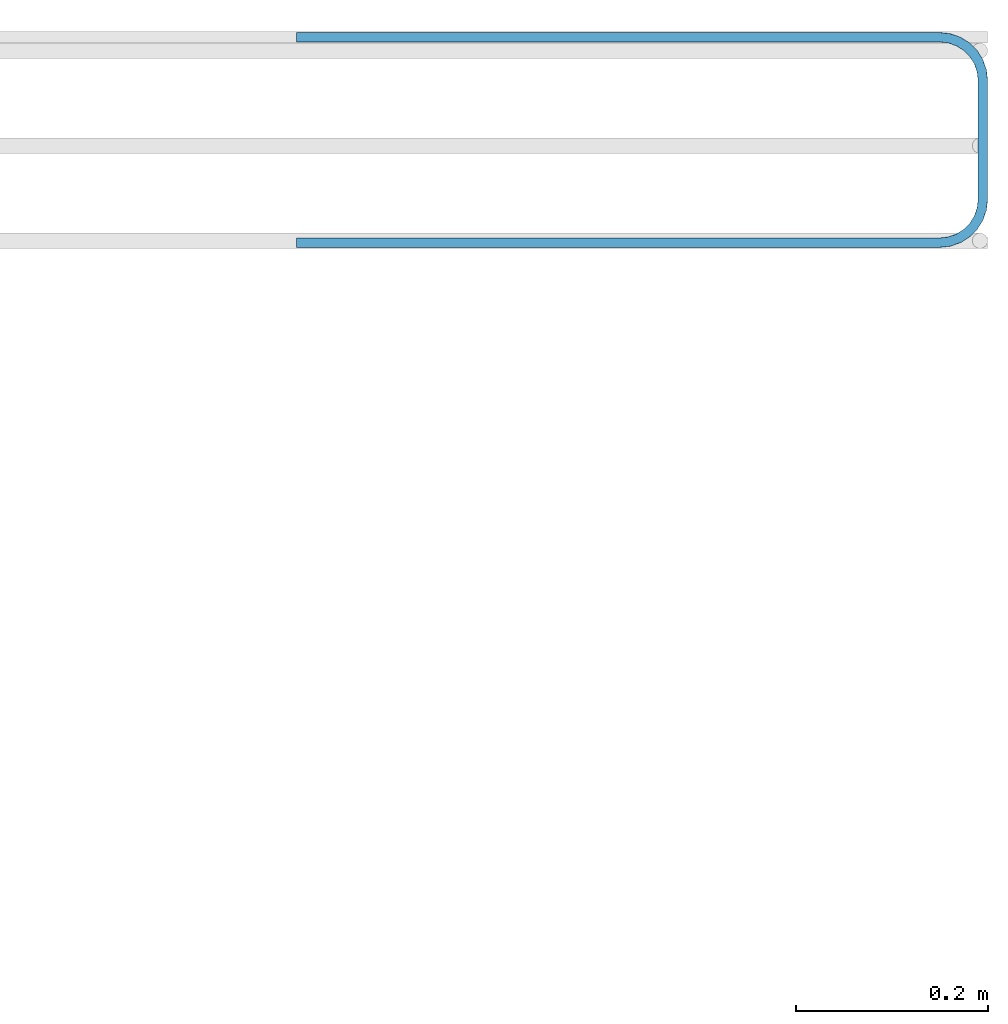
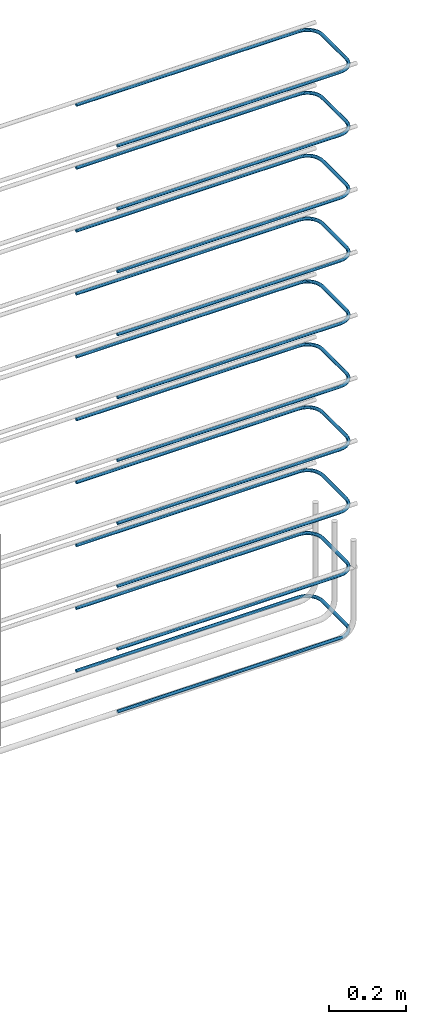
# One storey, part 5 of 21: 1 reinforcing bar.
"""IFC4X3_ADD2 building model written with IfcOpenShell, lengths in millimetres."""

import ifcopenshell
import ifcopenshell.guid

model = None  # the IFC model being written
_history = None  # IfcOwnerHistory: only IFC2X3 demands one
_inside = {}  # id of a spatial element -> (the spatial element, [elements in it])
_under = {}  # id of a project, library or spatial element -> (it, [spatial elements below it])
_declared = {}  # id of a project -> (the project, [libraries it declares])
_typed = {}  # id of a type object -> (the type object, [elements of that type])
_made_of = {}  # id of a material, layer set ... -> (it, [elements and type objects made of it])


def new_model(schema):
    """Start an empty IFC model of exactly this schema.

    Asked for "IFC4X3", IfcOpenShell would pick the latest addendum, in which some entities
    have other attributes; the version numbers below select the first issue.
    IFC2X3 requires an IfcOwnerHistory on every rooted entity: one is made here for all.
    """
    global model, _history
    if schema == "IFC4X3":
        model = ifcopenshell.file(schema_version=(4, 3, 0, 0))
    else:
        model = ifcopenshell.file(schema=schema)
    _inside.clear()
    _under.clear()
    _declared.clear()
    _typed.clear()
    _made_of.clear()
    _history = None
    if model.schema == "IFC2X3":
        org = make("IfcOrganization", Name="unknown")
        user = make(
            "IfcPersonAndOrganization",
            ThePerson=make("IfcPerson", FamilyName="unknown"),
            TheOrganization=org,
        )
        app = make(
            "IfcApplication",
            ApplicationDeveloper=org,
            Version="unknown",
            ApplicationFullName="unknown",
            ApplicationIdentifier="unknown",
        )
        _history = make(
            "IfcOwnerHistory",
            OwningUser=user,
            OwningApplication=app,
            ChangeAction="ADDED",
            CreationDate=0,
        )
    return model


def make(cls, **values):
    """One entity of the class cls with the attributes given. An attribute that is None is left unset."""
    return model.create_entity(
        cls, **{name: value for name, value in values.items() if value is not None}
    )


def entity(cls, *values):
    """Any entity or typed value of the class cls, its attributes in the order of the schema. None: left unset."""
    e = model.create_entity(cls)
    for i, value in enumerate(values):
        if value is not None:
            e[i] = value
    return e


def rooted(cls, **values):
    """An entity with a GlobalId (a new one), such as an element, a storey or a relation."""
    return make(cls, GlobalId=ifcopenshell.guid.new(), OwnerHistory=_history, **values)


def si_unit(unit_type, name, prefix=None):
    """IfcSIUnit, for example si_unit("LENGTHUNIT", "METRE", prefix="MILLI")."""
    return make("IfcSIUnit", UnitType=unit_type, Prefix=prefix, Name=name)


def converted_unit(unit_type, name, factor, base, dimensions=None, offset=None):
    """IfcConversionBasedUnit, such as the inch: factor (a typed value) times the base unit."""
    return make(
        "IfcConversionBasedUnit"
        if offset is None
        else "IfcConversionBasedUnitWithOffset",
        ConversionOffset=offset,
        Dimensions=None
        if dimensions is None
        else entity("IfcDimensionalExponents", *dimensions),
        UnitType=unit_type,
        Name=name,
        ConversionFactor=make(
            "IfcMeasureWithUnit", ValueComponent=factor, UnitComponent=base
        ),
    )


def derived_unit(unit_type, elements):
    """IfcDerivedUnit: a product of units, each with its exponent."""
    return make(
        "IfcDerivedUnit",
        Elements=[
            make("IfcDerivedUnitElement", Unit=unit, Exponent=power)
            for unit, power in elements
        ],
        UnitType=unit_type,
    )


def assignment(units):
    """IfcUnitAssignment: the units of a project."""
    return None if units is None else make("IfcUnitAssignment", Units=units)


def point(xyz):
    """IfcCartesianPoint."""
    return None if xyz is None else make("IfcCartesianPoint", Coordinates=xyz)


def direction(xyz):
    """IfcDirection."""
    return None if xyz is None else make("IfcDirection", DirectionRatios=xyz)


def frame(location, z_axis=None, x_axis=None):
    """IfcAxis2Placement3D, a coordinate frame: its origin and axes. An axis left out is left unset."""
    return make(
        "IfcAxis2Placement3D",
        Location=point(location),
        Axis=direction(z_axis),
        RefDirection=direction(x_axis),
    )


def origin():
    """The frame at (0, 0, 0) with its axes left unset."""
    return frame((0.0, 0.0, 0.0))


def place(relative_to, where):
    """IfcLocalPlacement: puts the frame where relative to a parent placement (None: the world)."""
    return make(
        "IfcLocalPlacement", PlacementRelTo=relative_to, RelativePlacement=where
    )


def context(
    kind, dimensions, precision=None, world=None, true_north=None, identifier=None
):
    """IfcGeometricRepresentationContext, for example the 3D "Model" context."""
    return make(
        "IfcGeometricRepresentationContext",
        ContextIdentifier=identifier,
        ContextType=kind,
        CoordinateSpaceDimension=dimensions,
        Precision=precision,
        WorldCoordinateSystem=world,
        TrueNorth=true_north,
    )


def subcontext(parent, identifier, kind, view, scale=None):
    """IfcGeometricRepresentationSubContext, for example "Body" below "Model"."""
    return make(
        "IfcGeometricRepresentationSubContext",
        ContextIdentifier=identifier,
        ContextType=kind,
        ParentContext=parent,
        TargetScale=scale,
        TargetView=view,
    )


def project(units=None, contexts=None):
    """IfcProject with its units and contexts."""
    return rooted(
        "IfcProject",
        Name="project",
        RepresentationContexts=contexts,
        UnitsInContext=assignment(units),
    )


def spatial(cls, under=None, at=None, **own):
    """A site, building, storey or space (cls), placed at a placement, below another one or the project."""
    s = rooted(cls, ObjectPlacement=at, **own)
    if under is not None:
        _under.setdefault(under.id(), (under, []))[1].append(s)
    return s


def shape(context_of_items, identifier, shape_type, items):
    """IfcShapeRepresentation: the items that make up one representation, for example the "Body"."""
    return make(
        "IfcShapeRepresentation",
        ContextOfItems=context_of_items,
        RepresentationIdentifier=identifier,
        RepresentationType=shape_type,
        Items=items,
    )


def material(Name=None, Category=None):
    """IfcMaterial."""
    return make("IfcMaterial", Name=Name, Category=Category)


def made_of(thing, what):
    """Note that an element or type object is made of a material, layer set ...; save() writes the relation."""
    if what is not None:
        _made_of.setdefault(what.id(), (what, []))[1].append(thing)
    return thing


def type_object(cls, material=None, **own):
    """A type object (cls), such as IfcWallType, which elements share."""
    return made_of(rooted(cls, **own), material)


def element(
    cls,
    number,
    at=None,
    inside=None,
    cuts=None,
    type_object=None,
    material=None,
    context=None,
    identifier="Body",
    shape_type=None,
    held_by="IfcProductDefinitionShape",
    body=None,
    shapes=None,
    **own,
):
    """One element of the class cls, such as IfcWall. Its Tag is "e" and its number.

    at: its placement. inside: the storey or other place that contains it. cuts: it is an
    opening in that element (IfcRelVoidsElement). A single representation is given by context,
    identifier, shape_type and body (its items); several are given by shapes. held_by: the class
    of the entity that holds the representations. save() writes the other relations.
    """
    e = rooted(cls, Tag="e%d" % number, ObjectPlacement=at, **own)
    if body is not None:
        shapes = [shape(context, identifier, shape_type, body)]
    if shapes is not None:
        e.Representation = make(held_by, Representations=shapes)
    if inside is not None:
        _inside.setdefault(inside.id(), (inside, []))[1].append(e)
    if cuts is not None:
        rooted(
            "IfcRelVoidsElement", RelatingBuildingElement=cuts, RelatedOpeningElement=e
        )
    if type_object is not None:
        _typed.setdefault(type_object.id(), (type_object, []))[1].append(e)
    return made_of(e, material)


def aggregate(whole, parts):
    """IfcRelAggregates: a whole, such as a stair, and the parts it consists of."""
    return rooted("IfcRelAggregates", RelatingObject=whole, RelatedObjects=parts)


def save(model, path):
    """Write the relations noted so far, then the file.

    IfcRelAggregates (storeys below a building ...), IfcRelContainedInSpatialStructure (elements
    in a storey), IfcRelDefinesByType, IfcRelAssociatesMaterial and IfcRelDeclares: one each for
    every whole, place, type object, material and project.
    """
    for whole, parts in _under.values():
        aggregate(whole, parts)
    for where, things in _inside.values():
        rooted(
            "IfcRelContainedInSpatialStructure",
            RelatedElements=things,
            RelatingStructure=where,
        )
    for kind, things in _typed.values():
        rooted("IfcRelDefinesByType", RelatedObjects=things, RelatingType=kind)
    for what, things in _made_of.values():
        rooted("IfcRelAssociatesMaterial", RelatedObjects=things, RelatingMaterial=what)
    for by, libraries in _declared.values():
        rooted("IfcRelDeclares", RelatingContext=by, RelatedDefinitions=libraries)
    model.write(path)


model = new_model("IFC4X3_ADD2")

# Units and contexts
model_context = context("Model", 3, precision=0.01, world=origin(), true_north=direction((6.123233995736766e-17, 1.0)))
plan_context = context("Plan", 3, precision=0.01, world=origin(), true_north=direction((6.123233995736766e-17, 1.0)))
body_context = subcontext(model_context, "Body", "Model", "MODEL_VIEW")
ifc_project = project(units=[si_unit("LENGTHUNIT", "METRE", prefix="MILLI"), converted_unit("PLANEANGLEUNIT", "DEGREE", entity("IfcPlaneAngleMeasure", 0.017453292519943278), si_unit("PLANEANGLEUNIT", "RADIAN"), dimensions=[0, 0, 0, 0, 0, 0, 0]), si_unit("AREAUNIT", "SQUARE_METRE"), si_unit("VOLUMEUNIT", "CUBIC_METRE"), derived_unit("THERMALTRANSMITTANCEUNIT", [(si_unit("MASSUNIT", "GRAM", prefix="KILO"), 1), (si_unit("THERMODYNAMICTEMPERATUREUNIT", "KELVIN"), -1), (si_unit("TIMEUNIT", "SECOND"), -3)]), derived_unit("USERDEFINED", [(si_unit("MASSUNIT", "GRAM", prefix="KILO"), 1), (si_unit("THERMODYNAMICTEMPERATUREUNIT", "KELVIN"), -1), (si_unit("TIMEUNIT", "SECOND"), -2)]), derived_unit("THERMALRESISTANCEUNIT", [(si_unit("MASSUNIT", "GRAM", prefix="KILO"), -1), (si_unit("TIMEUNIT", "SECOND"), 3), (si_unit("THERMODYNAMICTEMPERATUREUNIT", "KELVIN"), 1)]), si_unit("MASSUNIT", "GRAM", prefix="KILO"), derived_unit("MOMENTOFINERTIAUNIT", [(si_unit("LENGTHUNIT", "METRE"), 4)]), derived_unit("LINEARFORCEUNIT", [(si_unit("MASSUNIT", "GRAM", prefix="KILO"), 1), (si_unit("TIMEUNIT", "SECOND"), -2)]), derived_unit("WARPINGCONSTANTUNIT", [(si_unit("LENGTHUNIT", "METRE"), 6)]), si_unit("PRESSUREUNIT", "PASCAL"), derived_unit("MASSDENSITYUNIT", [(si_unit("MASSUNIT", "GRAM", prefix="KILO"), 1), (si_unit("LENGTHUNIT", "METRE"), -3)]), derived_unit("MODULUSOFELASTICITYUNIT", [(si_unit("MASSUNIT", "GRAM", prefix="KILO"), 1), (si_unit("TIMEUNIT", "SECOND"), -2), (si_unit("LENGTHUNIT", "METRE"), -1)]), derived_unit("THERMALEXPANSIONCOEFFICIENTUNIT", [(si_unit("THERMODYNAMICTEMPERATUREUNIT", "KELVIN"), -1)]), derived_unit("VAPORPERMEABILITYUNIT", [(si_unit("LENGTHUNIT", "METRE"), -1), (si_unit("TIMEUNIT", "SECOND"), 1)]), derived_unit("USERDEFINED", [(si_unit("MASSUNIT", "GRAM", prefix="KILO"), 1), (si_unit("TIMEUNIT", "SECOND"), -3), (si_unit("LENGTHUNIT", "METRE"), 3), (si_unit("ELECTRICCURRENTUNIT", "AMPERE"), -2)]), derived_unit("SPECIFICHEATCAPACITYUNIT", [(si_unit("THERMODYNAMICTEMPERATUREUNIT", "KELVIN"), -1), (si_unit("TIMEUNIT", "SECOND"), -2), (si_unit("LENGTHUNIT", "METRE"), 2)]), derived_unit("THERMALCONDUCTANCEUNIT", [(si_unit("MASSUNIT", "GRAM", prefix="KILO"), 1), (si_unit("THERMODYNAMICTEMPERATUREUNIT", "KELVIN"), -1), (si_unit("TIMEUNIT", "SECOND"), -3), (si_unit("LENGTHUNIT", "METRE"), 1)])], contexts=[model_context, plan_context])

# Site, building, storey
site_placement = place(None, origin())
site = spatial("IfcSite", under=ifc_project, at=site_placement, Name="Default", CompositionType="ELEMENT")
building_placement = place(site_placement, origin())
building = spatial("IfcBuilding", under=site, at=building_placement, Name="Complex structure", CompositionType="ELEMENT")
storey_placement = place(building_placement, frame((0.0, 0.0, 3000.0)))
storey = spatial("IfcBuildingStorey", under=building, at=storey_placement, Name="Level 01", CompositionType="ELEMENT", Elevation=3000.0)

# Reinforcing bar
ifc_material = material(Name="Steel Rebar - B500A, B or C", Category="Unassigned")
reinforcing_bar_type = type_object("IfcReinforcingBarType", Name="Rebar Bar:10mm", PredefinedType="NOTDEFINED")
reinforcing_bar_placement = place(storey_placement, origin())
ifc_direction_1 = entity("IfcDirection", [0.0, 0.0, -1.0])
ifc_direction_2 = entity("IfcDirection", [0.0, 0.0, -1.0])
ifc_direction_3 = entity("IfcDirection", [0.0, 0.0, -1.0])
ifc_direction_4 = entity("IfcDirection", [0.0, 0.0, -1.0])
ifc_direction_5 = entity("IfcDirection", [0.0, 0.0, -1.0])
ifc_direction_6 = entity("IfcDirection", [0.0, 0.0, -1.0])
ifc_direction_7 = entity("IfcDirection", [0.0, 0.0, -1.0])
ifc_direction_8 = entity("IfcDirection", [0.0, 0.0, -1.0])
ifc_direction_9 = entity("IfcDirection", [0.0, 0.0, -1.0])
ifc_direction_10 = entity("IfcDirection", [0.0, 0.0, -1.0])
element("IfcReinforcingBar", 1, at=reinforcing_bar_placement, inside=storey, type_object=reinforcing_bar_type, material=ifc_material, Name="Rebar Bar:10mm : Shape 21", ObjectType="Rebar Bar:10mm", context=body_context, shape_type="AdvancedSweptSolid", body=[
    entity("IfcSweptDiskSolid", entity("IfcCompositeCurve", [entity("IfcCompositeCurveSegment", "CONTINUOUS", True, entity("IfcPolyline", [entity("IfcCartesianPoint", [-1390.221550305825, 4844.133296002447, 1848.0]), entity("IfcCartesianPoint", [-720.221550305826, 4844.133296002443, 1848.0])])), entity("IfcCompositeCurveSegment", "CONTINUOUS", True, entity("IfcTrimmedCurve", entity("IfcCircle", entity("IfcAxis2Placement3D", entity("IfcCartesianPoint", [-720.2215503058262, 4799.133296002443, 1848.0]), ifc_direction_1, entity("IfcDirection", [1.0, 0.0, 0.0])), 45.0), [entity("IfcParameterValue", 269.9999999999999)], [entity("IfcParameterValue", 360.00000000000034)], True, "PARAMETER")), entity("IfcCompositeCurveSegment", "CONTINUOUS", True, entity("IfcPolyline", [entity("IfcCartesianPoint", [-675.2215503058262, 4799.133296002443, 1848.0]), entity("IfcCartesianPoint", [-675.221550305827, 4675.1332960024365, 1848.0])])), entity("IfcCompositeCurveSegment", "CONTINUOUS", True, entity("IfcTrimmedCurve", entity("IfcCircle", entity("IfcAxis2Placement3D", entity("IfcCartesianPoint", [-720.221550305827, 4675.133296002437, 1848.0]), ifc_direction_1, entity("IfcDirection", [0.0, -1.0, 0.0])), 45.0), [entity("IfcParameterValue", 269.9999999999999)], [entity("IfcParameterValue", 360.00000000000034)], True, "PARAMETER")), entity("IfcCompositeCurveSegment", "CONTINUOUS", True, entity("IfcPolyline", [entity("IfcCartesianPoint", [-720.2215503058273, 4630.133296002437, 1848.0]), entity("IfcCartesianPoint", [-1390.2215503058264, 4630.133296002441, 1848.0])]))], False), 5.0, None, 0.0, 183.00000000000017),
    entity("IfcSweptDiskSolid", entity("IfcCompositeCurve", [entity("IfcCompositeCurveSegment", "CONTINUOUS", True, entity("IfcPolyline", [entity("IfcCartesianPoint", [-1390.2215503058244, 4844.133296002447, 1648.0]), entity("IfcCartesianPoint", [-720.2215503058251, 4844.133296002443, 1648.0])])), entity("IfcCompositeCurveSegment", "CONTINUOUS", True, entity("IfcTrimmedCurve", entity("IfcCircle", entity("IfcAxis2Placement3D", entity("IfcCartesianPoint", [-720.2215503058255, 4799.133296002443, 1648.0]), ifc_direction_2, entity("IfcDirection", [1.0, 0.0, 0.0])), 45.0), [entity("IfcParameterValue", 269.9999999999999)], [entity("IfcParameterValue", 360.00000000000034)], True, "PARAMETER")), entity("IfcCompositeCurveSegment", "CONTINUOUS", True, entity("IfcPolyline", [entity("IfcCartesianPoint", [-675.2215503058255, 4799.133296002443, 1648.0]), entity("IfcCartesianPoint", [-675.2215503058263, 4675.1332960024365, 1648.0])])), entity("IfcCompositeCurveSegment", "CONTINUOUS", True, entity("IfcTrimmedCurve", entity("IfcCircle", entity("IfcAxis2Placement3D", entity("IfcCartesianPoint", [-720.2215503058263, 4675.133296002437, 1648.0]), ifc_direction_2, entity("IfcDirection", [0.0, -1.0, 0.0])), 45.0), [entity("IfcParameterValue", 269.9999999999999)], [entity("IfcParameterValue", 360.00000000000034)], True, "PARAMETER")), entity("IfcCompositeCurveSegment", "CONTINUOUS", True, entity("IfcPolyline", [entity("IfcCartesianPoint", [-720.2215503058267, 4630.133296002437, 1648.0]), entity("IfcCartesianPoint", [-1390.2215503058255, 4630.133296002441, 1648.0])]))], False), 5.0, None, 0.0, 183.00000000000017),
    entity("IfcSweptDiskSolid", entity("IfcCompositeCurve", [entity("IfcCompositeCurveSegment", "CONTINUOUS", True, entity("IfcPolyline", [entity("IfcCartesianPoint", [-1390.2215503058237, 4844.133296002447, 1448.0]), entity("IfcCartesianPoint", [-720.2215503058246, 4844.133296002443, 1448.0])])), entity("IfcCompositeCurveSegment", "CONTINUOUS", True, entity("IfcTrimmedCurve", entity("IfcCircle", entity("IfcAxis2Placement3D", entity("IfcCartesianPoint", [-720.2215503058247, 4799.133296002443, 1448.0]), ifc_direction_3, entity("IfcDirection", [1.0, 0.0, 0.0])), 45.0), [entity("IfcParameterValue", 269.9999999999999)], [entity("IfcParameterValue", 360.00000000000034)], True, "PARAMETER")), entity("IfcCompositeCurveSegment", "CONTINUOUS", True, entity("IfcPolyline", [entity("IfcCartesianPoint", [-675.2215503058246, 4799.133296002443, 1448.0]), entity("IfcCartesianPoint", [-675.2215503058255, 4675.1332960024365, 1448.0])])), entity("IfcCompositeCurveSegment", "CONTINUOUS", True, entity("IfcTrimmedCurve", entity("IfcCircle", entity("IfcAxis2Placement3D", entity("IfcCartesianPoint", [-720.2215503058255, 4675.133296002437, 1448.0]), ifc_direction_3, entity("IfcDirection", [0.0, -1.0, 0.0])), 45.0), [entity("IfcParameterValue", 269.9999999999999)], [entity("IfcParameterValue", 360.00000000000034)], True, "PARAMETER")), entity("IfcCompositeCurveSegment", "CONTINUOUS", True, entity("IfcPolyline", [entity("IfcCartesianPoint", [-720.2215503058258, 4630.133296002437, 1448.0]), entity("IfcCartesianPoint", [-1390.221550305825, 4630.133296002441, 1448.0])]))], False), 5.0, None, 0.0, 183.00000000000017),
    entity("IfcSweptDiskSolid", entity("IfcCompositeCurve", [entity("IfcCompositeCurveSegment", "CONTINUOUS", True, entity("IfcPolyline", [entity("IfcCartesianPoint", [-1390.221550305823, 4844.133296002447, 1248.0]), entity("IfcCartesianPoint", [-720.2215503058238, 4844.133296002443, 1248.0])])), entity("IfcCompositeCurveSegment", "CONTINUOUS", True, entity("IfcTrimmedCurve", entity("IfcCircle", entity("IfcAxis2Placement3D", entity("IfcCartesianPoint", [-720.221550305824, 4799.133296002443, 1248.0]), ifc_direction_4, entity("IfcDirection", [1.0, 0.0, 0.0])), 45.0), [entity("IfcParameterValue", 269.9999999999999)], [entity("IfcParameterValue", 360.00000000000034)], True, "PARAMETER")), entity("IfcCompositeCurveSegment", "CONTINUOUS", True, entity("IfcPolyline", [entity("IfcCartesianPoint", [-675.2215503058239, 4799.133296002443, 1248.0]), entity("IfcCartesianPoint", [-675.2215503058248, 4675.1332960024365, 1248.0])])), entity("IfcCompositeCurveSegment", "CONTINUOUS", True, entity("IfcTrimmedCurve", entity("IfcCircle", entity("IfcAxis2Placement3D", entity("IfcCartesianPoint", [-720.2215503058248, 4675.133296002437, 1248.0]), ifc_direction_4, entity("IfcDirection", [0.0, -1.0, 0.0])), 45.0), [entity("IfcParameterValue", 269.9999999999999)], [entity("IfcParameterValue", 360.00000000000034)], True, "PARAMETER")), entity("IfcCompositeCurveSegment", "CONTINUOUS", True, entity("IfcPolyline", [entity("IfcCartesianPoint", [-720.2215503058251, 4630.133296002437, 1248.0]), entity("IfcCartesianPoint", [-1390.2215503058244, 4630.133296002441, 1248.0])]))], False), 5.0, None, 0.0, 183.00000000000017),
    entity("IfcSweptDiskSolid", entity("IfcCompositeCurve", [entity("IfcCompositeCurveSegment", "CONTINUOUS", True, entity("IfcPolyline", [entity("IfcCartesianPoint", [-1390.2215503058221, 4844.133296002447, 1048.0]), entity("IfcCartesianPoint", [-720.2215503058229, 4844.133296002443, 1048.0])])), entity("IfcCompositeCurveSegment", "CONTINUOUS", True, entity("IfcTrimmedCurve", entity("IfcCircle", entity("IfcAxis2Placement3D", entity("IfcCartesianPoint", [-720.2215503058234, 4799.133296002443, 1048.0]), ifc_direction_5, entity("IfcDirection", [1.0, 0.0, 0.0])), 45.0), [entity("IfcParameterValue", 269.9999999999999)], [entity("IfcParameterValue", 360.00000000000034)], True, "PARAMETER")), entity("IfcCompositeCurveSegment", "CONTINUOUS", True, entity("IfcPolyline", [entity("IfcCartesianPoint", [-675.2215503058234, 4799.133296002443, 1048.0]), entity("IfcCartesianPoint", [-675.2215503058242, 4675.1332960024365, 1048.0])])), entity("IfcCompositeCurveSegment", "CONTINUOUS", True, entity("IfcTrimmedCurve", entity("IfcCircle", entity("IfcAxis2Placement3D", entity("IfcCartesianPoint", [-720.2215503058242, 4675.133296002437, 1048.0]), ifc_direction_5, entity("IfcDirection", [0.0, -1.0, 0.0])), 45.0), [entity("IfcParameterValue", 269.9999999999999)], [entity("IfcParameterValue", 360.00000000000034)], True, "PARAMETER")), entity("IfcCompositeCurveSegment", "CONTINUOUS", True, entity("IfcPolyline", [entity("IfcCartesianPoint", [-720.2215503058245, 4630.133296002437, 1048.0]), entity("IfcCartesianPoint", [-1390.2215503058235, 4630.133296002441, 1048.0])]))], False), 5.0, None, 0.0, 183.00000000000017),
    entity("IfcSweptDiskSolid", entity("IfcCompositeCurve", [entity("IfcCompositeCurveSegment", "CONTINUOUS", True, entity("IfcPolyline", [entity("IfcCartesianPoint", [-1390.2215503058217, 4844.133296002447, 848.0]), entity("IfcCartesianPoint", [-720.2215503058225, 4844.133296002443, 848.0])])), entity("IfcCompositeCurveSegment", "CONTINUOUS", True, entity("IfcTrimmedCurve", entity("IfcCircle", entity("IfcAxis2Placement3D", entity("IfcCartesianPoint", [-720.2215503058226, 4799.133296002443, 848.0]), ifc_direction_6, entity("IfcDirection", [1.0, 0.0, 0.0])), 45.0), [entity("IfcParameterValue", 269.9999999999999)], [entity("IfcParameterValue", 360.00000000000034)], True, "PARAMETER")), entity("IfcCompositeCurveSegment", "CONTINUOUS", True, entity("IfcPolyline", [entity("IfcCartesianPoint", [-675.2215503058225, 4799.133296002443, 848.0]), entity("IfcCartesianPoint", [-675.2215503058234, 4675.1332960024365, 848.0])])), entity("IfcCompositeCurveSegment", "CONTINUOUS", True, entity("IfcTrimmedCurve", entity("IfcCircle", entity("IfcAxis2Placement3D", entity("IfcCartesianPoint", [-720.2215503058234, 4675.133296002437, 848.0]), ifc_direction_6, entity("IfcDirection", [0.0, -1.0, 0.0])), 45.0), [entity("IfcParameterValue", 269.9999999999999)], [entity("IfcParameterValue", 360.00000000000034)], True, "PARAMETER")), entity("IfcCompositeCurveSegment", "CONTINUOUS", True, entity("IfcPolyline", [entity("IfcCartesianPoint", [-720.2215503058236, 4630.133296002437, 848.0]), entity("IfcCartesianPoint", [-1390.221550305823, 4630.133296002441, 848.0])]))], False), 5.0, None, 0.0, 183.00000000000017),
    entity("IfcSweptDiskSolid", entity("IfcCompositeCurve", [entity("IfcCompositeCurveSegment", "CONTINUOUS", True, entity("IfcPolyline", [entity("IfcCartesianPoint", [-1390.2215503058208, 4844.133296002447, 648.0]), entity("IfcCartesianPoint", [-720.2215503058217, 4844.133296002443, 648.0])])), entity("IfcCompositeCurveSegment", "CONTINUOUS", True, entity("IfcTrimmedCurve", entity("IfcCircle", entity("IfcAxis2Placement3D", entity("IfcCartesianPoint", [-720.2215503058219, 4799.133296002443, 648.0]), ifc_direction_7, entity("IfcDirection", [1.0, 0.0, 0.0])), 45.0), [entity("IfcParameterValue", 269.9999999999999)], [entity("IfcParameterValue", 360.00000000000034)], True, "PARAMETER")), entity("IfcCompositeCurveSegment", "CONTINUOUS", True, entity("IfcPolyline", [entity("IfcCartesianPoint", [-675.2215503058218, 4799.133296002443, 648.0]), entity("IfcCartesianPoint", [-675.2215503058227, 4675.1332960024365, 648.0])])), entity("IfcCompositeCurveSegment", "CONTINUOUS", True, entity("IfcTrimmedCurve", entity("IfcCircle", entity("IfcAxis2Placement3D", entity("IfcCartesianPoint", [-720.2215503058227, 4675.133296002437, 648.0]), ifc_direction_7, entity("IfcDirection", [0.0, -1.0, 0.0])), 45.0), [entity("IfcParameterValue", 269.9999999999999)], [entity("IfcParameterValue", 360.00000000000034)], True, "PARAMETER")), entity("IfcCompositeCurveSegment", "CONTINUOUS", True, entity("IfcPolyline", [entity("IfcCartesianPoint", [-720.2215503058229, 4630.133296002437, 648.0]), entity("IfcCartesianPoint", [-1390.2215503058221, 4630.133296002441, 648.0])]))], False), 5.0, None, 0.0, 183.00000000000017),
    entity("IfcSweptDiskSolid", entity("IfcCompositeCurve", [entity("IfcCompositeCurveSegment", "CONTINUOUS", True, entity("IfcPolyline", [entity("IfcCartesianPoint", [-1390.2215503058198, 4844.133296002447, 448.0]), entity("IfcCartesianPoint", [-720.2215503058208, 4844.133296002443, 448.0])])), entity("IfcCompositeCurveSegment", "CONTINUOUS", True, entity("IfcTrimmedCurve", entity("IfcCircle", entity("IfcAxis2Placement3D", entity("IfcCartesianPoint", [-720.2215503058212, 4799.133296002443, 448.0]), ifc_direction_8, entity("IfcDirection", [1.0, 0.0, 0.0])), 45.0), [entity("IfcParameterValue", 269.9999999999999)], [entity("IfcParameterValue", 360.00000000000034)], True, "PARAMETER")), entity("IfcCompositeCurveSegment", "CONTINUOUS", True, entity("IfcPolyline", [entity("IfcCartesianPoint", [-675.2215503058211, 4799.133296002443, 448.0]), entity("IfcCartesianPoint", [-675.221550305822, 4675.1332960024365, 448.0])])), entity("IfcCompositeCurveSegment", "CONTINUOUS", True, entity("IfcTrimmedCurve", entity("IfcCircle", entity("IfcAxis2Placement3D", entity("IfcCartesianPoint", [-720.221550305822, 4675.133296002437, 448.0]), ifc_direction_8, entity("IfcDirection", [0.0, -1.0, 0.0])), 45.0), [entity("IfcParameterValue", 269.9999999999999)], [entity("IfcParameterValue", 360.00000000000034)], True, "PARAMETER")), entity("IfcCompositeCurveSegment", "CONTINUOUS", True, entity("IfcPolyline", [entity("IfcCartesianPoint", [-720.2215503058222, 4630.133296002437, 448.0]), entity("IfcCartesianPoint", [-1390.2215503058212, 4630.133296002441, 448.0])]))], False), 5.0, None, 0.0, 183.00000000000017),
    entity("IfcSweptDiskSolid", entity("IfcCompositeCurve", [entity("IfcCompositeCurveSegment", "CONTINUOUS", True, entity("IfcPolyline", [entity("IfcCartesianPoint", [-1390.2215503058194, 4844.133296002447, 248.0]), entity("IfcCartesianPoint", [-720.2215503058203, 4844.133296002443, 248.0])])), entity("IfcCompositeCurveSegment", "CONTINUOUS", True, entity("IfcTrimmedCurve", entity("IfcCircle", entity("IfcAxis2Placement3D", entity("IfcCartesianPoint", [-720.2215503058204, 4799.133296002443, 248.0]), ifc_direction_9, entity("IfcDirection", [1.0, 0.0, 0.0])), 45.0), [entity("IfcParameterValue", 269.9999999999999)], [entity("IfcParameterValue", 360.00000000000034)], True, "PARAMETER")), entity("IfcCompositeCurveSegment", "CONTINUOUS", True, entity("IfcPolyline", [entity("IfcCartesianPoint", [-675.2215503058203, 4799.133296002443, 248.0]), entity("IfcCartesianPoint", [-675.2215503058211, 4675.1332960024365, 248.0])])), entity("IfcCompositeCurveSegment", "CONTINUOUS", True, entity("IfcTrimmedCurve", entity("IfcCircle", entity("IfcAxis2Placement3D", entity("IfcCartesianPoint", [-720.2215503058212, 4675.133296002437, 248.0]), ifc_direction_9, entity("IfcDirection", [0.0, -1.0, 0.0])), 45.0), [entity("IfcParameterValue", 269.9999999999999)], [entity("IfcParameterValue", 360.00000000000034)], True, "PARAMETER")), entity("IfcCompositeCurveSegment", "CONTINUOUS", True, entity("IfcPolyline", [entity("IfcCartesianPoint", [-720.2215503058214, 4630.133296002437, 248.0]), entity("IfcCartesianPoint", [-1390.2215503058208, 4630.133296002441, 248.0])]))], False), 5.0, None, 0.0, 183.00000000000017),
    entity("IfcSweptDiskSolid", entity("IfcCompositeCurve", [entity("IfcCompositeCurveSegment", "CONTINUOUS", True, entity("IfcPolyline", [entity("IfcCartesianPoint", [-1390.2215503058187, 4844.133296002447, 48.0]), entity("IfcCartesianPoint", [-720.2215503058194, 4844.133296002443, 48.0])])), entity("IfcCompositeCurveSegment", "CONTINUOUS", True, entity("IfcTrimmedCurve", entity("IfcCircle", entity("IfcAxis2Placement3D", entity("IfcCartesianPoint", [-720.2215503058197, 4799.133296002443, 48.0]), ifc_direction_10, entity("IfcDirection", [1.0, 0.0, 0.0])), 45.0), [entity("IfcParameterValue", 269.9999999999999)], [entity("IfcParameterValue", 360.00000000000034)], True, "PARAMETER")), entity("IfcCompositeCurveSegment", "CONTINUOUS", True, entity("IfcPolyline", [entity("IfcCartesianPoint", [-675.2215503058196, 4799.133296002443, 48.0]), entity("IfcCartesianPoint", [-675.2215503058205, 4675.1332960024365, 48.0])])), entity("IfcCompositeCurveSegment", "CONTINUOUS", True, entity("IfcTrimmedCurve", entity("IfcCircle", entity("IfcAxis2Placement3D", entity("IfcCartesianPoint", [-720.2215503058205, 4675.133296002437, 48.0]), ifc_direction_10, entity("IfcDirection", [0.0, -1.0, 0.0])), 45.0), [entity("IfcParameterValue", 269.9999999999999)], [entity("IfcParameterValue", 360.00000000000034)], True, "PARAMETER")), entity("IfcCompositeCurveSegment", "CONTINUOUS", True, entity("IfcPolyline", [entity("IfcCartesianPoint", [-720.2215503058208, 4630.133296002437, 48.0]), entity("IfcCartesianPoint", [-1390.2215503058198, 4630.133296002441, 48.0])]))], False), 5.0, None, 0.0, 183.00000000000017),
])

save(model, "model.ifc")
